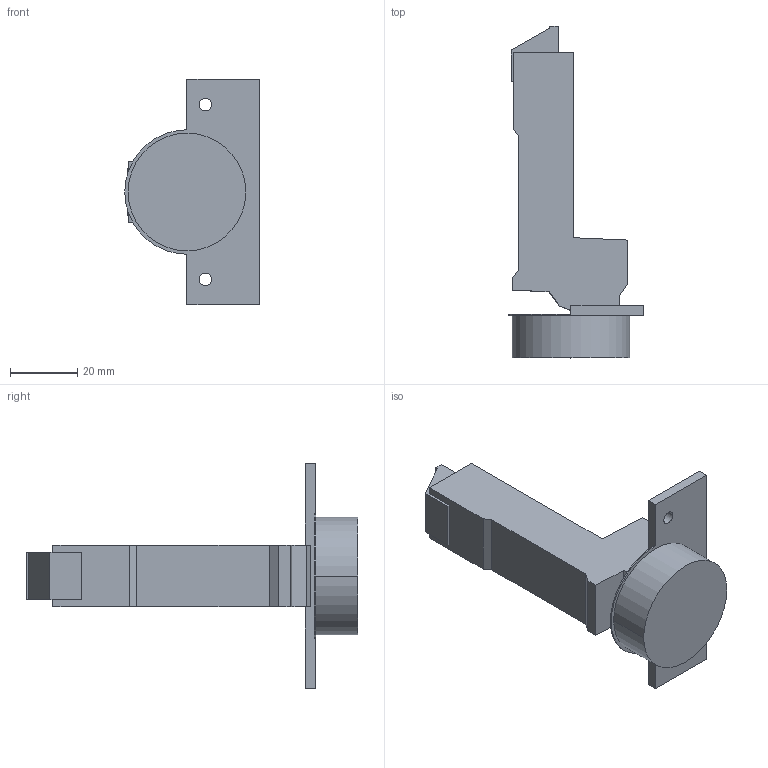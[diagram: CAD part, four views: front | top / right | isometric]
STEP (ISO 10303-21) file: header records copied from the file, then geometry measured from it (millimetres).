
FILE_DESCRIPTION (( 'STEP AP214' ), '1' );
FILE_NAME ('Scharnier T Click-on 95° H_BB, K19.step', '2010-12-06T09:51:09', ( 'grass' ), ( '' ), 'SwSTEP 2.0', 'SolidWorks 2010', '' );
FILE_SCHEMA (( 'AUTOMOTIVE_DESIGN' ));
Length unit declared in the file: millimetre
Products named in the file (1): Scharnier T Click-on 95° H_BB, K19
Bounding box: 40 x 98.7 x 67 mm (x, y, z)
Volume: 45527.1 mm3; surface area: 12757.2 mm2
Topology: 1 solids, 1 shells, 51 faces, 135 edges, 90 vertices
Faces by surface type: plane 37, cylinder 14
Entity records: 1619 total; most frequent: CARTESIAN_POINT 277, ORIENTED_EDGE 270, DIRECTION 267, EDGE_CURVE 135, LINE 107, VECTOR 107, VERTEX_POINT 90, AXIS2_PLACEMENT_3D 80
